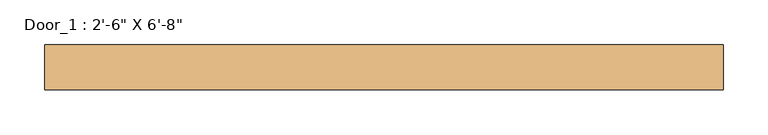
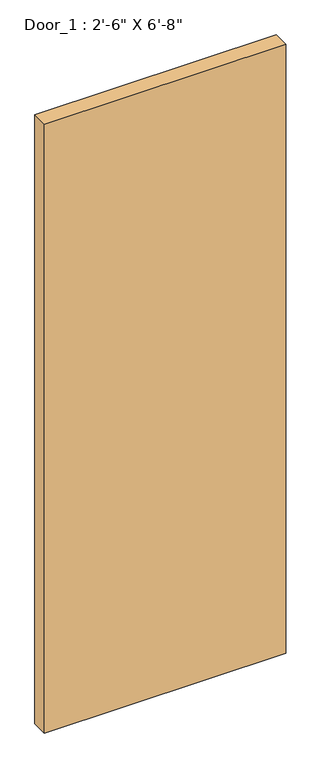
"""IFC4 building model written with IfcOpenShell, lengths in millimetres: door geometry."""

from ifc_helpers import new_model, si_unit, origin, origin_with_axes, place, context, project, spatial, polyline, outline, extrude, source, transform, mapped, element, save


def door_50b9832b(model_context):
    return source(origin(), model_context, "Body", "SweptSolid", [
        extrude(outline(polyline([(381.0, 52.5893842), (-381.0, 52.5893842), (-381.0, 103.3893842), (381.0, 103.3893842), (381.0, 52.5893842)])), origin_with_axes(), (0.0, 0.0, 1.0), 2032.0),
    ])


if __name__ == "__main__":
    model = new_model("IFC4")
    model_context = context("Model", 3, world=origin())
    ifc_project = project(units=[si_unit("LENGTHUNIT", "METRE", prefix="MILLI")], contexts=[model_context])
    site = spatial("IfcSite", under=ifc_project)
    building = spatial("IfcBuilding", under=site)
    placement = place(None, origin())
    door_shape = door_50b9832b(model_context)
    element("IfcDoor", 1, ObjectType="Door_1 : 2'-6\" X 6'-8\"", at=placement, inside=building, context=model_context, shape_type="MappedRepresentation", body=[
        mapped(door_shape, transform((0.0, 0.0, 0.0), x_axis=(1.0, 0.0, 0.0), y_axis=(0.0, 1.0, 0.0), z_axis=(0.0, 0.0, 1.0))),
    ])
    save(model, "model.ifc")
